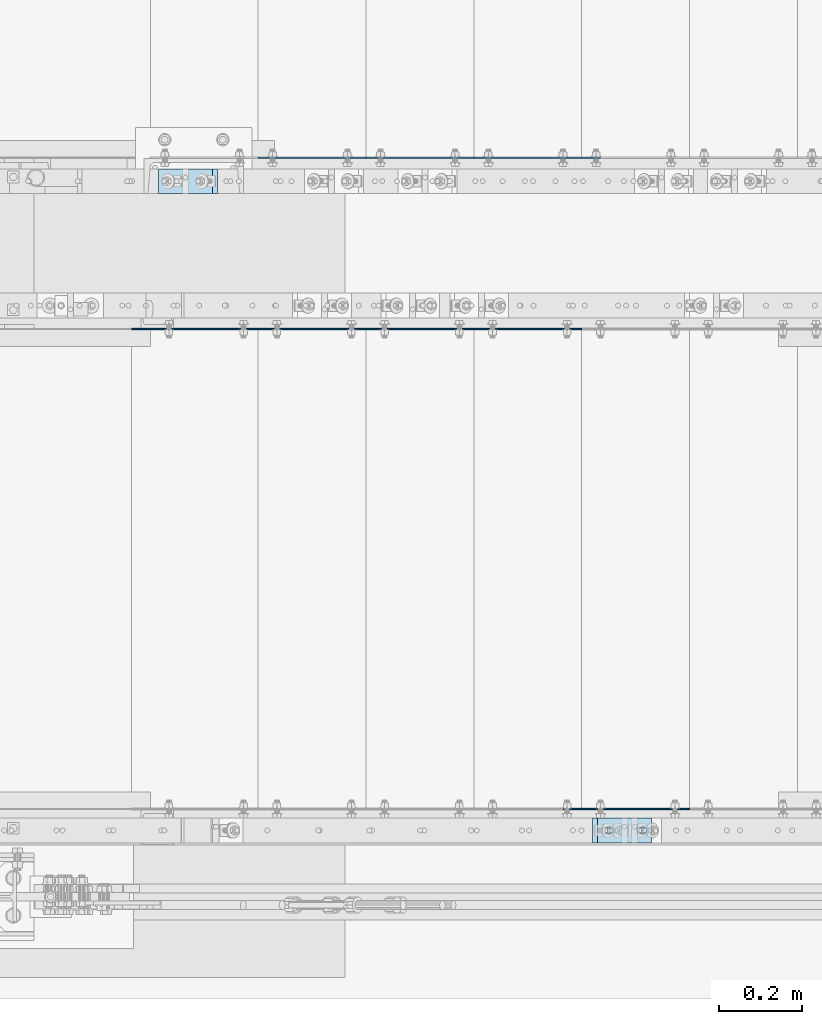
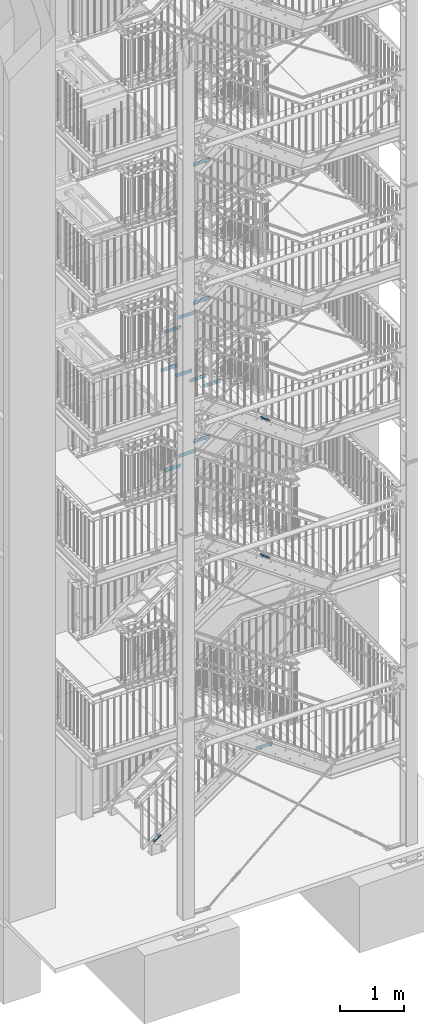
# One storey, part 172 of 831: 15 plates, 30 openings.
"""IFC2X3 building model written with IfcOpenShell, lengths in millimetres."""

from ifc_helpers import new_model, entity, si_unit, converted_unit, point, frame, frame_2d, origin, origin_with_axes, origin_2d_with_axis, place, context, project, spatial, polyline, circle_curve, line_curve, trimmed, segment, composite_curve, circle, outline, extrude, material, layer, layer_set, element, save


model = new_model("IFC2X3")

# Units and contexts
model_context = context("Model", 3, precision=1e-09, world=origin_with_axes())
ifc_project = project(units=[si_unit("LENGTHUNIT", "METRE", prefix="MILLI"), si_unit("AREAUNIT", "SQUARE_METRE"), si_unit("VOLUMEUNIT", "CUBIC_METRE"), converted_unit("PLANEANGLEUNIT", "DEGREE", entity("IfcPlaneAngleMeasure", 0.01745329), si_unit("PLANEANGLEUNIT", "RADIAN"), dimensions=[0, 0, 0, 0, 0, 0, 0])], contexts=[model_context])

# Site, building, storey
site_placement = place(None, origin_with_axes())
site = spatial("IfcSite", under=ifc_project, at=site_placement, Name="Site", CompositionType="ELEMENT")
building_placement = place(site_placement, origin_with_axes())
building = spatial("IfcBuilding", under=site, at=building_placement, Name="Struktur 1", CompositionType="ELEMENT")
storey_placement = place(building_placement, origin_with_axes())
storey = spatial("IfcBuildingStorey", under=building, at=storey_placement, Name="Default Storey", CompositionType="ELEMENT", Elevation=0.0)

# Plate, openings
ifc_material = material(Name="S235JR")
ifc_layer_1 = layer(ifc_material, 20.0)
ifc_layer_set_1 = layer_set([ifc_layer_1], Name="S235JR")
plate_1_placement = place(None, frame((5398.389021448, 6121.736971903, 670.209138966), z_axis=(-0.579973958, 0.0, 0.814635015), x_axis=(-0.814635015, 0.0, -0.579973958)))
plate_1 = element("IfcPlate", 1, at=plate_1_placement, inside=storey, material=ifc_layer_set_1, Name="Plate#500", ObjectType="Plate#500", context=model_context, shape_type="SweptSolid", body=[
    extrude(outline(polyline([(0.0, 0.0), (160.0, 0.0), (160.0, 60.0), (0.0, 60.0), (0.0, 0.0)])), origin_with_axes(), (0.0, 0.0, 1.0), 20.0),
])
opening_1_placement = place(plate_1_placement, frame((38.0, 37.001, 20.5), z_axis=(0.0, 0.0, 1.0), x_axis=(-1.0, 0.0, 0.0)))
element("IfcOpeningElement", 2, at=opening_1_placement, cuts=plate_1, ObjectType="Opening", context=model_context, shape_type="SweptSolid", body=[
    extrude(outline(composite_curve([segment(trimmed(line_curve((0.0, 0.0), (1.0, 0.0), 16.0), [point((0.0, 0.0))], [point((16.0, 0.0))], True, "CARTESIAN"), True, "CONTINUOUS"), segment(trimmed(circle_curve(frame_2d((16.0, 7.001), x_axis=(1.0, 0.0)), 7.001), [point((16.0, 0.0))], [point((16.0, 14.002))], True, "CARTESIAN"), True, "CONTINUOUS"), segment(trimmed(line_curve((16.0, 14.002), (-1.0, 0.0), 16.0), [point((16.0, 14.002))], [point((0.0, 14.002))], True, "CARTESIAN"), True, "CONTINUOUS"), segment(trimmed(circle_curve(frame_2d((0.0, 7.001), x_axis=(1.0, 0.0)), 7.001), [point((0.0, 14.002))], [point((0.0, 0.0))], True, "CARTESIAN"), True, "CONTINUOUS")], self_intersect=False)), origin(), (0.0, 0.0, -1.0), 21.0),
])
opening_2_placement = place(plate_1_placement, frame((138.0, 37.001, 20.5), z_axis=(0.0, 0.0, 1.0), x_axis=(-1.0, 0.0, 0.0)))
element("IfcOpeningElement", 3, at=opening_2_placement, cuts=plate_1, ObjectType="Opening", context=model_context, shape_type="SweptSolid", body=[
    extrude(outline(composite_curve([segment(trimmed(line_curve((0.0, 0.0), (1.0, 0.0), 16.0), [point((0.0, 0.0))], [point((16.0, 0.0))], True, "CARTESIAN"), True, "CONTINUOUS"), segment(trimmed(circle_curve(frame_2d((16.0, 7.001), x_axis=(1.0, 0.0)), 7.001), [point((16.0, 0.0))], [point((16.0, 14.002))], True, "CARTESIAN"), True, "CONTINUOUS"), segment(trimmed(line_curve((16.0, 14.002), (-1.0, 0.0), 16.0), [point((16.0, 14.002))], [point((0.0, 14.002))], True, "CARTESIAN"), True, "CONTINUOUS"), segment(trimmed(circle_curve(frame_2d((0.0, 7.001), x_axis=(1.0, 0.0)), 7.001), [point((0.0, 14.002))], [point((0.0, 0.0))], True, "CARTESIAN"), True, "CONTINUOUS")], self_intersect=False)), origin(), (0.0, 0.0, -1.0), 21.0),
])

ifc_layer_2 = layer(ifc_material, 3.0)
ifc_layer_set_2 = layer_set([ifc_layer_2], Name="S235JR")
plate_2_placement = place(None, frame((6276.713402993, 5733.736971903, 9240.0), z_axis=(0.0, 1.0, 0.0), x_axis=(0.0, 0.0, -1.0)))
plate_2 = element("IfcPlate", 4, at=plate_2_placement, inside=storey, material=ifc_layer_set_2, Name="Grate_Step#17", ObjectType="Grate_Step#17", context=model_context, shape_type="SweptSolid", body=[
    extrude(outline(polyline([(0.0, 0.0), (70.0, 0.0), (70.0, 275.0), (40.0, 305.0), (0.0, 305.0), (0.0, 0.0)])), origin_with_axes(), (0.0, 0.0, 1.0), 3.0),
])
opening_3_placement = place(plate_2_placement, frame((55.0, 215.0, -0.5), z_axis=(0.0, 0.0, 1.0), x_axis=(0.0, 1.0, 0.0)))
element("IfcOpeningElement", 5, at=opening_3_placement, cuts=plate_2, ObjectType="Opening", context=model_context, shape_type="SweptSolid", body=[
    extrude(outline(composite_curve([segment(trimmed(line_curve((-9.5, -7.001), (1.0, 0.0), 19.0), [point((-9.5, -7.001))], [point((9.5, -7.001))], True, "CARTESIAN"), True, "CONTINUOUS"), segment(trimmed(circle_curve(frame_2d((9.5, 0.0), x_axis=(1.0, 0.0)), 7.001), [point((9.5, -7.001))], [point((9.5, 7.001))], True, "CARTESIAN"), True, "CONTINUOUS"), segment(trimmed(line_curve((9.5, 7.001), (-1.0, 0.0), 19.0), [point((9.5, 7.001))], [point((-9.5, 7.001))], True, "CARTESIAN"), True, "CONTINUOUS"), segment(trimmed(circle_curve(frame_2d((-9.5, 0.0), x_axis=(1.0, 0.0)), 7.001), [point((-9.5, 7.001))], [point((-9.5, -7.001))], True, "CARTESIAN"), True, "CONTINUOUS")], self_intersect=False)), origin(), (0.0, 0.0, 1.0), 4.0),
])
opening_4_placement = place(plate_2_placement, frame((55.0, 35.0, -0.5), z_axis=(0.0, 0.0, 1.0), x_axis=(0.0, 1.0, 0.0)))
element("IfcOpeningElement", 6, at=opening_4_placement, cuts=plate_2, ObjectType="Opening", context=model_context, shape_type="SweptSolid", body=[
    extrude(circle(Radius=7.001, at=origin_2d_with_axis()), origin(), (0.0, 0.0, 1.0), 4.0),
])

plate_3_placement = place(None, frame((6016.713402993, 5733.736971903, 9428.0), z_axis=(0.0, 1.0, 0.0), x_axis=(0.0, 0.0, -1.0)))
plate_3 = element("IfcPlate", 7, at=plate_3_placement, inside=storey, material=ifc_layer_set_2, Name="Grate_Step#24", ObjectType="Grate_Step#24", context=model_context, shape_type="SweptSolid", body=[
    extrude(outline(polyline([(0.0, 0.0), (70.0, 0.0), (70.0, 275.0), (40.0, 305.0), (0.0, 305.0), (0.0, 0.0)])), origin_with_axes(), (0.0, 0.0, 1.0), 3.0),
])
opening_5_placement = place(plate_3_placement, frame((55.0, 35.0, -0.5), z_axis=(0.0, 0.0, 1.0), x_axis=(0.0, 1.0, 0.0)))
element("IfcOpeningElement", 8, at=opening_5_placement, cuts=plate_3, ObjectType="Opening", context=model_context, shape_type="SweptSolid", body=[
    extrude(circle(Radius=7.001, at=origin_2d_with_axis()), origin(), (0.0, 0.0, 1.0), 4.0),
])
opening_6_placement = place(plate_3_placement, frame((55.0, 215.0, -0.5), z_axis=(0.0, 0.0, 1.0), x_axis=(0.0, 1.0, 0.0)))
element("IfcOpeningElement", 9, at=opening_6_placement, cuts=plate_3, ObjectType="Opening", context=model_context, shape_type="SweptSolid", body=[
    extrude(outline(composite_curve([segment(trimmed(line_curve((-9.5, -7.001), (1.0, 0.0), 19.0), [point((-9.5, -7.001))], [point((9.5, -7.001))], True, "CARTESIAN"), True, "CONTINUOUS"), segment(trimmed(circle_curve(frame_2d((9.5, 0.0), x_axis=(1.0, 0.0)), 7.001), [point((9.5, -7.001))], [point((9.5, 7.001))], True, "CARTESIAN"), True, "CONTINUOUS"), segment(trimmed(line_curve((9.5, 7.001), (-1.0, 0.0), 19.0), [point((9.5, 7.001))], [point((-9.5, 7.001))], True, "CARTESIAN"), True, "CONTINUOUS"), segment(trimmed(circle_curve(frame_2d((-9.5, 0.0), x_axis=(1.0, 0.0)), 7.001), [point((-9.5, 7.001))], [point((-9.5, -7.001))], True, "CARTESIAN"), True, "CONTINUOUS")], self_intersect=False)), origin(), (0.0, 0.0, 1.0), 4.0),
])

plate_4_placement = place(None, frame((5756.713402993, 5733.736971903, 9616.0), z_axis=(0.0, 1.0, 0.0), x_axis=(0.0, 0.0, -1.0)))
plate_4 = element("IfcPlate", 10, at=plate_4_placement, inside=storey, material=ifc_layer_set_2, Name="Grate_Step#31", ObjectType="Grate_Step#31", context=model_context, shape_type="SweptSolid", body=[
    extrude(outline(polyline([(0.0, 0.0), (70.0, 0.0), (70.0, 275.0), (40.0, 305.0), (0.0, 305.0), (0.0, 0.0)])), origin_with_axes(), (0.0, 0.0, 1.0), 3.0),
])
opening_7_placement = place(plate_4_placement, frame((55.0, 35.0, -0.5), z_axis=(0.0, 0.0, 1.0), x_axis=(0.0, 1.0, 0.0)))
element("IfcOpeningElement", 11, at=opening_7_placement, cuts=plate_4, ObjectType="Opening", context=model_context, shape_type="SweptSolid", body=[
    extrude(circle(Radius=7.001, at=origin_2d_with_axis()), origin(), (0.0, 0.0, 1.0), 4.0),
])
opening_8_placement = place(plate_4_placement, frame((55.0, 215.0, -0.5), z_axis=(0.0, 0.0, 1.0), x_axis=(0.0, 1.0, 0.0)))
element("IfcOpeningElement", 12, at=opening_8_placement, cuts=plate_4, ObjectType="Opening", context=model_context, shape_type="SweptSolid", body=[
    extrude(outline(composite_curve([segment(trimmed(line_curve((-9.5, -7.001), (1.0, 0.0), 19.0), [point((-9.5, -7.001))], [point((9.5, -7.001))], True, "CARTESIAN"), True, "CONTINUOUS"), segment(trimmed(circle_curve(frame_2d((9.5, 0.0), x_axis=(1.0, 0.0)), 7.001), [point((9.5, -7.001))], [point((9.5, 7.001))], True, "CARTESIAN"), True, "CONTINUOUS"), segment(trimmed(line_curve((9.5, 7.001), (-1.0, 0.0), 19.0), [point((9.5, 7.001))], [point((-9.5, 7.001))], True, "CARTESIAN"), True, "CONTINUOUS"), segment(trimmed(circle_curve(frame_2d((-9.5, 0.0), x_axis=(1.0, 0.0)), 7.001), [point((-9.5, 7.001))], [point((-9.5, -7.001))], True, "CARTESIAN"), True, "CONTINUOUS")], self_intersect=False)), origin(), (0.0, 0.0, 1.0), 4.0),
])

plate_5_placement = place(None, frame((5496.713402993, 5733.736971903, 9804.0), z_axis=(0.0, 1.0, 0.0), x_axis=(0.0, 0.0, -1.0)))
plate_5 = element("IfcPlate", 13, at=plate_5_placement, inside=storey, material=ifc_layer_set_2, Name="Grate_Step#38", ObjectType="Grate_Step#38", context=model_context, shape_type="SweptSolid", body=[
    extrude(outline(polyline([(0.0, 0.0), (70.0, 0.0), (70.0, 275.0), (40.0, 305.0), (0.0, 305.0), (0.0, 0.0)])), origin_with_axes(), (0.0, 0.0, 1.0), 3.0),
])
opening_9_placement = place(plate_5_placement, frame((55.0, 35.0, -0.5), z_axis=(0.0, 0.0, 1.0), x_axis=(0.0, 1.0, 0.0)))
element("IfcOpeningElement", 14, at=opening_9_placement, cuts=plate_5, ObjectType="Opening", context=model_context, shape_type="SweptSolid", body=[
    extrude(circle(Radius=7.001, at=origin_2d_with_axis()), origin(), (0.0, 0.0, 1.0), 4.0),
])
opening_10_placement = place(plate_5_placement, frame((55.0, 215.0, -0.5), z_axis=(0.0, 0.0, 1.0), x_axis=(0.0, 1.0, 0.0)))
element("IfcOpeningElement", 15, at=opening_10_placement, cuts=plate_5, ObjectType="Opening", context=model_context, shape_type="SweptSolid", body=[
    extrude(outline(composite_curve([segment(trimmed(line_curve((-9.5, -7.001), (1.0, 0.0), 19.0), [point((-9.5, -7.001))], [point((9.5, -7.001))], True, "CARTESIAN"), True, "CONTINUOUS"), segment(trimmed(circle_curve(frame_2d((9.5, 0.0), x_axis=(1.0, 0.0)), 7.001), [point((9.5, -7.001))], [point((9.5, 7.001))], True, "CARTESIAN"), True, "CONTINUOUS"), segment(trimmed(line_curve((9.5, 7.001), (-1.0, 0.0), 19.0), [point((9.5, 7.001))], [point((-9.5, 7.001))], True, "CARTESIAN"), True, "CONTINUOUS"), segment(trimmed(circle_curve(frame_2d((-9.5, 0.0), x_axis=(1.0, 0.0)), 7.001), [point((-9.5, 7.001))], [point((-9.5, -7.001))], True, "CARTESIAN"), True, "CONTINUOUS")], self_intersect=False)), origin(), (0.0, 0.0, 1.0), 4.0),
])

plate_6_placement = place(None, frame((6016.713402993, 6149.736971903, 10554.9285719), z_axis=(0.0, -1.0, 0.0), x_axis=(0.0, 0.0, -1.0)))
plate_6 = element("IfcPlate", 16, at=plate_6_placement, inside=storey, material=ifc_layer_set_2, Name="Grate_Step#17", ObjectType="Grate_Step#17", context=model_context, shape_type="SweptSolid", body=[
    extrude(outline(polyline([(0.0, 0.0), (70.0, 0.0), (70.0, 275.0), (40.0, 305.0), (0.0, 305.0), (0.0, 0.0)])), origin_with_axes(), (0.0, 0.0, 1.0), 3.0),
])
opening_11_placement = place(plate_6_placement, frame((55.0, 35.0, -0.5), z_axis=(0.0, 0.0, 1.0), x_axis=(0.0, 1.0, 0.0)))
element("IfcOpeningElement", 17, at=opening_11_placement, cuts=plate_6, ObjectType="Opening", context=model_context, shape_type="SweptSolid", body=[
    extrude(circle(Radius=7.001, at=origin_2d_with_axis()), origin(), (0.0, 0.0, 1.0), 4.0),
])
opening_12_placement = place(plate_6_placement, frame((55.0, 215.0, -0.5), z_axis=(0.0, 0.0, 1.0), x_axis=(0.0, 1.0, 0.0)))
element("IfcOpeningElement", 18, at=opening_12_placement, cuts=plate_6, ObjectType="Opening", context=model_context, shape_type="SweptSolid", body=[
    extrude(outline(composite_curve([segment(trimmed(line_curve((-9.5, -7.001), (1.0, 0.0), 19.0), [point((-9.5, -7.001))], [point((9.5, -7.001))], True, "CARTESIAN"), True, "CONTINUOUS"), segment(trimmed(circle_curve(frame_2d((9.5, 0.0), x_axis=(1.0, 0.0)), 7.001), [point((9.5, -7.001))], [point((9.5, 7.001))], True, "CARTESIAN"), True, "CONTINUOUS"), segment(trimmed(line_curve((9.5, 7.001), (-1.0, 0.0), 19.0), [point((9.5, 7.001))], [point((-9.5, 7.001))], True, "CARTESIAN"), True, "CONTINUOUS"), segment(trimmed(circle_curve(frame_2d((-9.5, 0.0), x_axis=(1.0, 0.0)), 7.001), [point((-9.5, 7.001))], [point((-9.5, -7.001))], True, "CARTESIAN"), True, "CONTINUOUS")], self_intersect=False)), origin(), (0.0, 0.0, 1.0), 4.0),
])

plate_7_placement = place(None, frame((5496.713402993, 6149.736971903, 10179.6428577), z_axis=(0.0, -1.0, 0.0), x_axis=(0.0, 0.0, -1.0)))
plate_7 = element("IfcPlate", 19, at=plate_7_placement, inside=storey, material=ifc_layer_set_2, Name="Grate_Step#3", ObjectType="Grate_Step#3", context=model_context, shape_type="SweptSolid", body=[
    extrude(outline(polyline([(0.0, 0.0), (70.0, 0.0), (70.0, 275.0), (40.0, 305.0), (0.0, 305.0), (0.0, 0.0)])), origin_with_axes(), (0.0, 0.0, 1.0), 3.0),
])
opening_13_placement = place(plate_7_placement, frame((55.0, 215.0, -0.5), z_axis=(0.0, 0.0, 1.0), x_axis=(0.0, 1.0, 0.0)))
element("IfcOpeningElement", 20, at=opening_13_placement, cuts=plate_7, ObjectType="Opening", context=model_context, shape_type="SweptSolid", body=[
    extrude(outline(composite_curve([segment(trimmed(line_curve((-9.5, -7.001), (1.0, 0.0), 19.0), [point((-9.5, -7.001))], [point((9.5, -7.001))], True, "CARTESIAN"), True, "CONTINUOUS"), segment(trimmed(circle_curve(frame_2d((9.5, 0.0), x_axis=(1.0, 0.0)), 7.001), [point((9.5, -7.001))], [point((9.5, 7.001))], True, "CARTESIAN"), True, "CONTINUOUS"), segment(trimmed(line_curve((9.5, 7.001), (-1.0, 0.0), 19.0), [point((9.5, 7.001))], [point((-9.5, 7.001))], True, "CARTESIAN"), True, "CONTINUOUS"), segment(trimmed(circle_curve(frame_2d((-9.5, 0.0), x_axis=(1.0, 0.0)), 7.001), [point((-9.5, 7.001))], [point((-9.5, -7.001))], True, "CARTESIAN"), True, "CONTINUOUS")], self_intersect=False)), origin(), (0.0, 0.0, 1.0), 4.0),
])
opening_14_placement = place(plate_7_placement, frame((55.0, 35.0, -0.5), z_axis=(0.0, 0.0, 1.0), x_axis=(0.0, 1.0, 0.0)))
element("IfcOpeningElement", 21, at=opening_14_placement, cuts=plate_7, ObjectType="Opening", context=model_context, shape_type="SweptSolid", body=[
    extrude(circle(Radius=7.001, at=origin_2d_with_axis()), origin(), (0.0, 0.0, 1.0), 4.0),
])

plate_8_placement = place(None, frame((5756.713402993, 6149.736971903, 10367.2857148), z_axis=(0.0, -1.0, 0.0), x_axis=(0.0, 0.0, -1.0)))
plate_8 = element("IfcPlate", 22, at=plate_8_placement, inside=storey, material=ifc_layer_set_2, Name="Grate_Step#10", ObjectType="Grate_Step#10", context=model_context, shape_type="SweptSolid", body=[
    extrude(outline(polyline([(0.0, 0.0), (70.0, 0.0), (70.0, 275.0), (40.0, 305.0), (0.0, 305.0), (0.0, 0.0)])), origin_with_axes(), (0.0, 0.0, 1.0), 3.0),
])
opening_15_placement = place(plate_8_placement, frame((55.0, 35.0, -0.5), z_axis=(0.0, 0.0, 1.0), x_axis=(0.0, 1.0, 0.0)))
element("IfcOpeningElement", 23, at=opening_15_placement, cuts=plate_8, ObjectType="Opening", context=model_context, shape_type="SweptSolid", body=[
    extrude(circle(Radius=7.001, at=origin_2d_with_axis()), origin(), (0.0, 0.0, 1.0), 4.0),
])
opening_16_placement = place(plate_8_placement, frame((55.0, 215.0, -0.5), z_axis=(0.0, 0.0, 1.0), x_axis=(0.0, 1.0, 0.0)))
element("IfcOpeningElement", 24, at=opening_16_placement, cuts=plate_8, ObjectType="Opening", context=model_context, shape_type="SweptSolid", body=[
    extrude(outline(composite_curve([segment(trimmed(line_curve((-9.5, -7.001), (1.0, 0.0), 19.0), [point((-9.5, -7.001))], [point((9.5, -7.001))], True, "CARTESIAN"), True, "CONTINUOUS"), segment(trimmed(circle_curve(frame_2d((9.5, 0.0), x_axis=(1.0, 0.0)), 7.001), [point((9.5, -7.001))], [point((9.5, 7.001))], True, "CARTESIAN"), True, "CONTINUOUS"), segment(trimmed(line_curve((9.5, 7.001), (-1.0, 0.0), 19.0), [point((9.5, 7.001))], [point((-9.5, 7.001))], True, "CARTESIAN"), True, "CONTINUOUS"), segment(trimmed(circle_curve(frame_2d((-9.5, 0.0), x_axis=(1.0, 0.0)), 7.001), [point((-9.5, 7.001))], [point((-9.5, -7.001))], True, "CARTESIAN"), True, "CONTINUOUS")], self_intersect=False)), origin(), (0.0, 0.0, 1.0), 4.0),
])

plate_9_placement = place(None, frame((6016.713402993, 6149.736971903, 7924.0), z_axis=(0.0, -1.0, 0.0), x_axis=(0.0, 0.0, -1.0)))
plate_9 = element("IfcPlate", 25, at=plate_9_placement, inside=storey, material=ifc_layer_set_2, Name="Grate_Step#17", ObjectType="Grate_Step#17", context=model_context, shape_type="SweptSolid", body=[
    extrude(outline(polyline([(0.0, 0.0), (70.0, 0.0), (70.0, 275.0), (40.0, 305.0), (0.0, 305.0), (0.0, 0.0)])), origin_with_axes(), (0.0, 0.0, 1.0), 3.0),
])
opening_17_placement = place(plate_9_placement, frame((55.0, 215.0, -0.5), z_axis=(0.0, 0.0, 1.0), x_axis=(0.0, 1.0, 0.0)))
element("IfcOpeningElement", 26, at=opening_17_placement, cuts=plate_9, ObjectType="Opening", context=model_context, shape_type="SweptSolid", body=[
    extrude(outline(composite_curve([segment(trimmed(line_curve((-9.5, -7.001), (1.0, 0.0), 19.0), [point((-9.5, -7.001))], [point((9.5, -7.001))], True, "CARTESIAN"), True, "CONTINUOUS"), segment(trimmed(circle_curve(frame_2d((9.5, 0.0), x_axis=(1.0, 0.0)), 7.001), [point((9.5, -7.001))], [point((9.5, 7.001))], True, "CARTESIAN"), True, "CONTINUOUS"), segment(trimmed(line_curve((9.5, 7.001), (-1.0, 0.0), 19.0), [point((9.5, 7.001))], [point((-9.5, 7.001))], True, "CARTESIAN"), True, "CONTINUOUS"), segment(trimmed(circle_curve(frame_2d((-9.5, 0.0), x_axis=(1.0, 0.0)), 7.001), [point((-9.5, 7.001))], [point((-9.5, -7.001))], True, "CARTESIAN"), True, "CONTINUOUS")], self_intersect=False)), origin(), (0.0, 0.0, 1.0), 4.0),
])
opening_18_placement = place(plate_9_placement, frame((55.0, 35.0, -0.5), z_axis=(0.0, 0.0, 1.0), x_axis=(0.0, 1.0, 0.0)))
element("IfcOpeningElement", 27, at=opening_18_placement, cuts=plate_9, ObjectType="Opening", context=model_context, shape_type="SweptSolid", body=[
    extrude(circle(Radius=7.001, at=origin_2d_with_axis()), origin(), (0.0, 0.0, 1.0), 4.0),
])

plate_10_placement = place(None, frame((5496.713402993, 6149.736971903, 7548.0), z_axis=(0.0, -1.0, 0.0), x_axis=(0.0, 0.0, -1.0)))
plate_10 = element("IfcPlate", 28, at=plate_10_placement, inside=storey, material=ifc_layer_set_2, Name="Grate_Step#3", ObjectType="Grate_Step#3", context=model_context, shape_type="SweptSolid", body=[
    extrude(outline(polyline([(0.0, 0.0), (70.0, 0.0), (70.0, 275.0), (40.0, 305.0), (0.0, 305.0), (0.0, 0.0)])), origin_with_axes(), (0.0, 0.0, 1.0), 3.0),
])
opening_19_placement = place(plate_10_placement, frame((55.0, 215.0, -0.5), z_axis=(0.0, 0.0, 1.0), x_axis=(0.0, 1.0, 0.0)))
element("IfcOpeningElement", 29, at=opening_19_placement, cuts=plate_10, ObjectType="Opening", context=model_context, shape_type="SweptSolid", body=[
    extrude(outline(composite_curve([segment(trimmed(line_curve((-9.5, -7.001), (1.0, 0.0), 19.0), [point((-9.5, -7.001))], [point((9.5, -7.001))], True, "CARTESIAN"), True, "CONTINUOUS"), segment(trimmed(circle_curve(frame_2d((9.5, 0.0), x_axis=(1.0, 0.0)), 7.001), [point((9.5, -7.001))], [point((9.5, 7.001))], True, "CARTESIAN"), True, "CONTINUOUS"), segment(trimmed(line_curve((9.5, 7.001), (-1.0, 0.0), 19.0), [point((9.5, 7.001))], [point((-9.5, 7.001))], True, "CARTESIAN"), True, "CONTINUOUS"), segment(trimmed(circle_curve(frame_2d((-9.5, 0.0), x_axis=(1.0, 0.0)), 7.001), [point((-9.5, 7.001))], [point((-9.5, -7.001))], True, "CARTESIAN"), True, "CONTINUOUS")], self_intersect=False)), origin(), (0.0, 0.0, 1.0), 4.0),
])
opening_20_placement = place(plate_10_placement, frame((55.0, 35.0, -0.5), z_axis=(0.0, 0.0, 1.0), x_axis=(0.0, 1.0, 0.0)))
element("IfcOpeningElement", 30, at=opening_20_placement, cuts=plate_10, ObjectType="Opening", context=model_context, shape_type="SweptSolid", body=[
    extrude(circle(Radius=7.001, at=origin_2d_with_axis()), origin(), (0.0, 0.0, 1.0), 4.0),
])

plate_11_placement = place(None, frame((5756.713402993, 6149.736971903, 7736.0), z_axis=(0.0, -1.0, 0.0), x_axis=(0.0, 0.0, -1.0)))
plate_11 = element("IfcPlate", 31, at=plate_11_placement, inside=storey, material=ifc_layer_set_2, Name="Grate_Step#10", ObjectType="Grate_Step#10", context=model_context, shape_type="SweptSolid", body=[
    extrude(outline(polyline([(0.0, 0.0), (70.0, 0.0), (70.0, 275.0), (40.0, 305.0), (0.0, 305.0), (0.0, 0.0)])), origin_with_axes(), (0.0, 0.0, 1.0), 3.0),
])
opening_21_placement = place(plate_11_placement, frame((55.0, 215.0, -0.5), z_axis=(0.0, 0.0, 1.0), x_axis=(0.0, 1.0, 0.0)))
element("IfcOpeningElement", 32, at=opening_21_placement, cuts=plate_11, ObjectType="Opening", context=model_context, shape_type="SweptSolid", body=[
    extrude(outline(composite_curve([segment(trimmed(line_curve((-9.5, -7.001), (1.0, 0.0), 19.0), [point((-9.5, -7.001))], [point((9.5, -7.001))], True, "CARTESIAN"), True, "CONTINUOUS"), segment(trimmed(circle_curve(frame_2d((9.5, 0.0), x_axis=(1.0, 0.0)), 7.001), [point((9.5, -7.001))], [point((9.5, 7.001))], True, "CARTESIAN"), True, "CONTINUOUS"), segment(trimmed(line_curve((9.5, 7.001), (-1.0, 0.0), 19.0), [point((9.5, 7.001))], [point((-9.5, 7.001))], True, "CARTESIAN"), True, "CONTINUOUS"), segment(trimmed(circle_curve(frame_2d((-9.5, 0.0), x_axis=(1.0, 0.0)), 7.001), [point((-9.5, 7.001))], [point((-9.5, -7.001))], True, "CARTESIAN"), True, "CONTINUOUS")], self_intersect=False)), origin(), (0.0, 0.0, 1.0), 4.0),
])
opening_22_placement = place(plate_11_placement, frame((55.0, 35.0, -0.5), z_axis=(0.0, 0.0, 1.0), x_axis=(0.0, 1.0, 0.0)))
element("IfcOpeningElement", 33, at=opening_22_placement, cuts=plate_11, ObjectType="Opening", context=model_context, shape_type="SweptSolid", body=[
    extrude(circle(Radius=7.001, at=origin_2d_with_axis()), origin(), (0.0, 0.0, 1.0), 4.0),
])

plate_12_placement = place(None, frame((6016.713402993, 6149.736971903, 13183.6428573), z_axis=(0.0, -1.0, 0.0), x_axis=(0.0, 0.0, -1.0)))
plate_12 = element("IfcPlate", 34, at=plate_12_placement, inside=storey, material=ifc_layer_set_2, Name="Grate_Step#17", ObjectType="Grate_Step#17", context=model_context, shape_type="SweptSolid", body=[
    extrude(outline(polyline([(0.0, 0.0), (70.0, 0.0), (70.0, 275.0), (40.0, 305.0), (0.0, 305.0), (0.0, 0.0)])), origin_with_axes(), (0.0, 0.0, 1.0), 3.0),
])
opening_23_placement = place(plate_12_placement, frame((55.0, 35.0, -0.5), z_axis=(0.0, 0.0, 1.0), x_axis=(0.0, 1.0, 0.0)))
element("IfcOpeningElement", 35, at=opening_23_placement, cuts=plate_12, ObjectType="Opening", context=model_context, shape_type="SweptSolid", body=[
    extrude(circle(Radius=7.001, at=origin_2d_with_axis()), origin(), (0.0, 0.0, 1.0), 4.0),
])
opening_24_placement = place(plate_12_placement, frame((55.0, 215.0, -0.5), z_axis=(0.0, 0.0, 1.0), x_axis=(0.0, 1.0, 0.0)))
element("IfcOpeningElement", 36, at=opening_24_placement, cuts=plate_12, ObjectType="Opening", context=model_context, shape_type="SweptSolid", body=[
    extrude(outline(composite_curve([segment(trimmed(line_curve((-9.5, -7.001), (1.0, 0.0), 19.0), [point((-9.5, -7.001))], [point((9.5, -7.001))], True, "CARTESIAN"), True, "CONTINUOUS"), segment(trimmed(circle_curve(frame_2d((9.5, 0.0), x_axis=(1.0, 0.0)), 7.001), [point((9.5, -7.001))], [point((9.5, 7.001))], True, "CARTESIAN"), True, "CONTINUOUS"), segment(trimmed(line_curve((9.5, 7.001), (-1.0, 0.0), 19.0), [point((9.5, 7.001))], [point((-9.5, 7.001))], True, "CARTESIAN"), True, "CONTINUOUS"), segment(trimmed(circle_curve(frame_2d((-9.5, 0.0), x_axis=(1.0, 0.0)), 7.001), [point((-9.5, 7.001))], [point((-9.5, -7.001))], True, "CARTESIAN"), True, "CONTINUOUS")], self_intersect=False)), origin(), (0.0, 0.0, 1.0), 4.0),
])

plate_13_placement = place(None, frame((6536.713402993, 4576.736971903, 2961.473684), z_axis=(0.0, 1.0, 0.0), x_axis=(0.0, 0.0, -1.0)))
plate_13 = element("IfcPlate", 37, at=plate_13_placement, inside=storey, material=ifc_layer_set_2, Name="Grate_Step#23", ObjectType="Grate_Step#23", context=model_context, shape_type="SweptSolid", body=[
    extrude(outline(polyline([(0.0, 0.0), (70.0, 0.0), (70.0, 275.0), (40.0, 305.0), (0.0, 305.0), (0.0, 0.0)])), origin_with_axes(), (0.0, 0.0, 1.0), 3.0),
])
opening_25_placement = place(plate_13_placement, frame((55.0, 35.0, 3.5), z_axis=(0.0, 0.0, -1.0), x_axis=(0.0, 1.0, 0.0)))
element("IfcOpeningElement", 38, at=opening_25_placement, cuts=plate_13, ObjectType="Opening", context=model_context, shape_type="SweptSolid", body=[
    extrude(circle(Radius=7.001, at=origin_2d_with_axis()), origin(), (0.0, 0.0, 1.0), 4.0),
])
opening_26_placement = place(plate_13_placement, frame((55.0, 215.0, 3.5), z_axis=(0.0, 0.0, -1.0), x_axis=(0.0, 1.0, 0.0)))
element("IfcOpeningElement", 39, at=opening_26_placement, cuts=plate_13, ObjectType="Opening", context=model_context, shape_type="SweptSolid", body=[
    extrude(outline(composite_curve([segment(trimmed(line_curve((-9.5, -7.001), (1.0, 0.0), 19.0), [point((-9.5, -7.001))], [point((9.5, -7.001))], True, "CARTESIAN"), True, "CONTINUOUS"), segment(trimmed(circle_curve(frame_2d((9.5, 0.0), x_axis=(1.0, 0.0)), 7.001), [point((9.5, -7.001))], [point((9.5, 7.001))], True, "CARTESIAN"), True, "CONTINUOUS"), segment(trimmed(line_curve((9.5, 7.001), (-1.0, 0.0), 19.0), [point((9.5, 7.001))], [point((-9.5, 7.001))], True, "CARTESIAN"), True, "CONTINUOUS"), segment(trimmed(circle_curve(frame_2d((-9.5, 0.0), x_axis=(1.0, 0.0)), 7.001), [point((-9.5, 7.001))], [point((-9.5, -7.001))], True, "CARTESIAN"), True, "CONTINUOUS")], self_intersect=False)), origin(), (0.0, 0.0, 1.0), 4.0),
])

plate_14_placement = place(None, frame((6302.774261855, 4496.736971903, 6610.520371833), z_axis=(0.57512827, 0.0, 0.818063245), x_axis=(0.818063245, 0.0, -0.57512827)))
plate_14 = element("IfcPlate", 40, at=plate_14_placement, inside=storey, material=ifc_layer_set_1, Name="Plate#510", ObjectType="Plate#510", context=model_context, shape_type="SweptSolid", body=[
    extrude(outline(polyline([(0.0, 0.0), (160.0, 0.0), (160.0, 60.0), (0.0, 60.0), (0.0, 0.0)])), origin_with_axes(), (0.0, 0.0, 1.0), 20.0),
])
opening_27_placement = place(plate_14_placement, frame((38.0, 37.001, 20.5), z_axis=(0.0, 0.0, 1.0), x_axis=(-1.0, 0.0, 0.0)))
element("IfcOpeningElement", 41, at=opening_27_placement, cuts=plate_14, ObjectType="Opening", context=model_context, shape_type="SweptSolid", body=[
    extrude(outline(composite_curve([segment(trimmed(line_curve((0.0, 0.0), (1.0, 0.0), 16.0), [point((0.0, 0.0))], [point((16.0, 0.0))], True, "CARTESIAN"), True, "CONTINUOUS"), segment(trimmed(circle_curve(frame_2d((16.0, 7.001), x_axis=(1.0, 0.0)), 7.001), [point((16.0, 0.0))], [point((16.0, 14.002))], True, "CARTESIAN"), True, "CONTINUOUS"), segment(trimmed(line_curve((16.0, 14.002), (-1.0, 0.0), 16.0), [point((16.0, 14.002))], [point((0.0, 14.002))], True, "CARTESIAN"), True, "CONTINUOUS"), segment(trimmed(circle_curve(frame_2d((0.0, 7.001), x_axis=(1.0, 0.0)), 7.001), [point((0.0, 14.002))], [point((0.0, 0.0))], True, "CARTESIAN"), True, "CONTINUOUS")], self_intersect=False)), origin(), (0.0, 0.0, -1.0), 21.0),
])
opening_28_placement = place(plate_14_placement, frame((138.0, 37.001, 20.5), z_axis=(0.0, 0.0, 1.0), x_axis=(-1.0, 0.0, 0.0)))
element("IfcOpeningElement", 42, at=opening_28_placement, cuts=plate_14, ObjectType="Opening", context=model_context, shape_type="SweptSolid", body=[
    extrude(outline(composite_curve([segment(trimmed(line_curve((0.0, 0.0), (1.0, 0.0), 16.0), [point((0.0, 0.0))], [point((16.0, 0.0))], True, "CARTESIAN"), True, "CONTINUOUS"), segment(trimmed(circle_curve(frame_2d((16.0, 7.001), x_axis=(1.0, 0.0)), 7.001), [point((16.0, 0.0))], [point((16.0, 14.002))], True, "CARTESIAN"), True, "CONTINUOUS"), segment(trimmed(line_curve((16.0, 14.002), (-1.0, 0.0), 16.0), [point((16.0, 14.002))], [point((0.0, 14.002))], True, "CARTESIAN"), True, "CONTINUOUS"), segment(trimmed(circle_curve(frame_2d((0.0, 7.001), x_axis=(1.0, 0.0)), 7.001), [point((0.0, 14.002))], [point((0.0, 0.0))], True, "CARTESIAN"), True, "CONTINUOUS")], self_intersect=False)), origin(), (0.0, 0.0, -1.0), 21.0),
])

plate_15_placement = place(None, frame((6303.269357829, 4496.736971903, 9220.798001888), z_axis=(0.585945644, 0.0, 0.810350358), x_axis=(0.810350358, 0.0, -0.585945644)))
plate_15 = element("IfcPlate", 43, at=plate_15_placement, inside=storey, material=ifc_layer_set_1, Name="Plate#510", ObjectType="Plate#510", context=model_context, shape_type="SweptSolid", body=[
    extrude(outline(polyline([(0.0, 0.0), (160.0, 0.0), (160.0, 60.0), (0.0, 60.0), (0.0, 0.0)])), origin_with_axes(), (0.0, 0.0, 1.0), 20.0),
])
opening_29_placement = place(plate_15_placement, frame((38.0, 37.001, 20.5), z_axis=(0.0, 0.0, 1.0), x_axis=(-1.0, 0.0, 0.0)))
element("IfcOpeningElement", 44, at=opening_29_placement, cuts=plate_15, ObjectType="Opening", context=model_context, shape_type="SweptSolid", body=[
    extrude(outline(composite_curve([segment(trimmed(line_curve((0.0, 0.0), (1.0, 0.0), 16.0), [point((0.0, 0.0))], [point((16.0, 0.0))], True, "CARTESIAN"), True, "CONTINUOUS"), segment(trimmed(circle_curve(frame_2d((16.0, 7.001), x_axis=(1.0, 0.0)), 7.001), [point((16.0, 0.0))], [point((16.0, 14.002))], True, "CARTESIAN"), True, "CONTINUOUS"), segment(trimmed(line_curve((16.0, 14.002), (-1.0, 0.0), 16.0), [point((16.0, 14.002))], [point((0.0, 14.002))], True, "CARTESIAN"), True, "CONTINUOUS"), segment(trimmed(circle_curve(frame_2d((0.0, 7.001), x_axis=(1.0, 0.0)), 7.001), [point((0.0, 14.002))], [point((0.0, 0.0))], True, "CARTESIAN"), True, "CONTINUOUS")], self_intersect=False)), origin(), (0.0, 0.0, -1.0), 21.0),
])
opening_30_placement = place(plate_15_placement, frame((138.0, 37.001, 20.5), z_axis=(0.0, 0.0, 1.0), x_axis=(-1.0, 0.0, 0.0)))
element("IfcOpeningElement", 45, at=opening_30_placement, cuts=plate_15, ObjectType="Opening", context=model_context, shape_type="SweptSolid", body=[
    extrude(outline(composite_curve([segment(trimmed(line_curve((0.0, 0.0), (1.0, 0.0), 16.0), [point((0.0, 0.0))], [point((16.0, 0.0))], True, "CARTESIAN"), True, "CONTINUOUS"), segment(trimmed(circle_curve(frame_2d((16.0, 7.001), x_axis=(1.0, 0.0)), 7.001), [point((16.0, 0.0))], [point((16.0, 14.002))], True, "CARTESIAN"), True, "CONTINUOUS"), segment(trimmed(line_curve((16.0, 14.002), (-1.0, 0.0), 16.0), [point((16.0, 14.002))], [point((0.0, 14.002))], True, "CARTESIAN"), True, "CONTINUOUS"), segment(trimmed(circle_curve(frame_2d((0.0, 7.001), x_axis=(1.0, 0.0)), 7.001), [point((0.0, 14.002))], [point((0.0, 0.0))], True, "CARTESIAN"), True, "CONTINUOUS")], self_intersect=False)), origin(), (0.0, 0.0, -1.0), 21.0),
])

save(model, "model.ifc")
